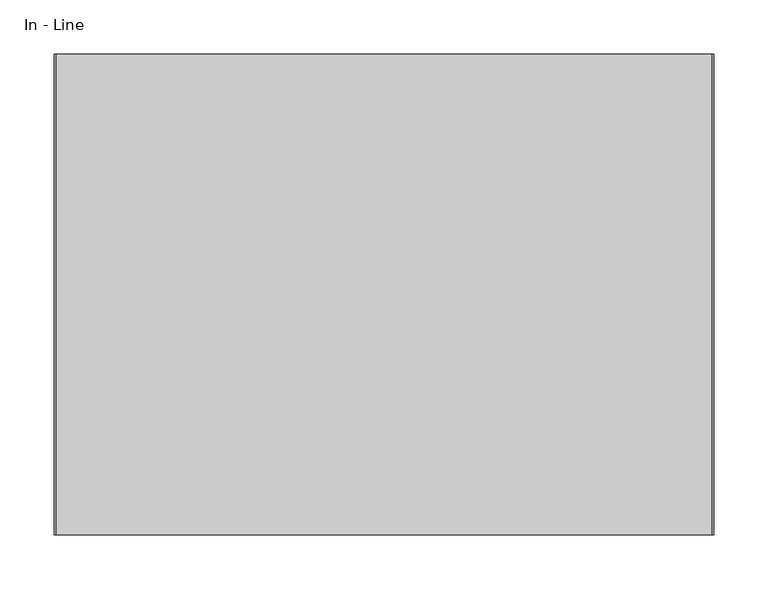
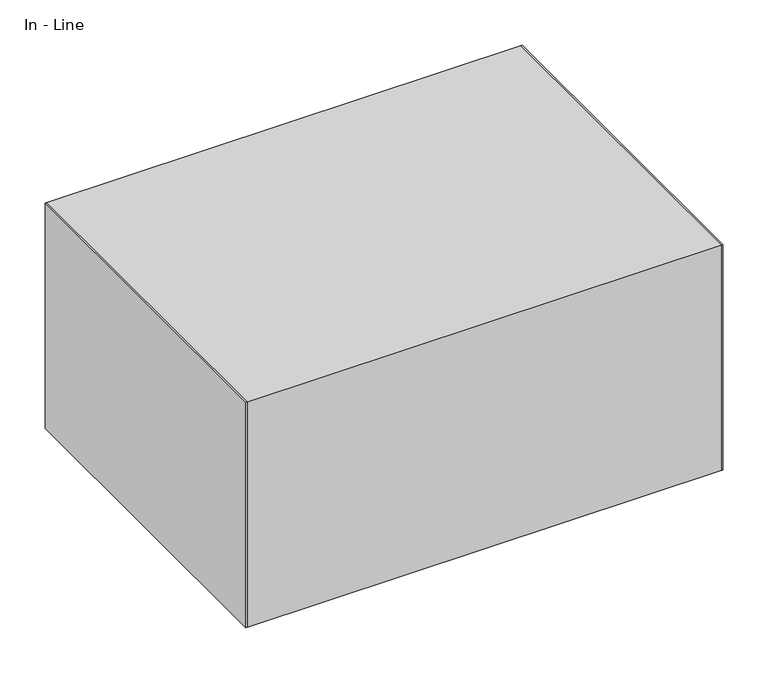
"""IFC4 building model written with IfcOpenShell, lengths in millimetres: furniture geometry, Steelcase Coalesse - Exponents - Seating - Bench Bridge : In - Line."""

from ifc_helpers import new_model, si_unit, frame, origin, place, context, project, spatial, polyline, outline, extrude, source, transform, mapped, element, save


def in_line_ce02a02d(model_context):
    return source(origin(), model_context, "Body", "SweptSolid", [
        extrude(outline(polyline([(608.0125, 165.1), (608.0125, 609.6), (609.6, 609.6), (609.6, 165.1), (608.0125, 165.1)])), frame((0.0, 0.0, 82.5754), z_axis=(0.0, 0.0, 1.0), x_axis=(1.0, 0.0, 0.0)), (0.0, 0.0, 1.0), 304.7746),
        extrude(outline(polyline([(0.0, 165.1), (0.0, 609.6), (1.5875, 609.6), (1.5875, 165.1), (0.0, 165.1)])), frame((0.0, 0.0, 82.5754), z_axis=(0.0, 0.0, 1.0), x_axis=(1.0, 0.0, 0.0)), (0.0, 0.0, 1.0), 304.7746),
        extrude(outline(polyline([(609.6, 609.6), (609.6, 165.1), (0.0, 165.1), (0.0, 609.6), (609.6, 609.6)])), frame((0.0, 0.0, 82.5754), z_axis=(0.0, 0.0, 1.0), x_axis=(1.0, 0.0, 0.0)), (0.0, 0.0, 1.0), 304.7746),
    ])


if __name__ == "__main__":
    model = new_model("IFC4")
    model_context = context("Model", 3, world=origin())
    ifc_project = project(units=[si_unit("LENGTHUNIT", "METRE", prefix="MILLI")], contexts=[model_context])
    site = spatial("IfcSite", under=ifc_project)
    building = spatial("IfcBuilding", under=site)
    placement = place(None, origin())
    in_line_shape = in_line_ce02a02d(model_context)
    element("IfcFurniture", 1, ObjectType="Steelcase Coalesse - Exponents - Seating - Bench Bridge : In - Line", at=placement, inside=building, context=model_context, shape_type="MappedRepresentation", body=[
        mapped(in_line_shape, transform((0.0, 0.0, 0.0), x_axis=(1.0, 0.0, 0.0), y_axis=(0.0, 1.0, 0.0), z_axis=(0.0, 0.0, 1.0))),
    ])
    save(model, "model.ifc")
